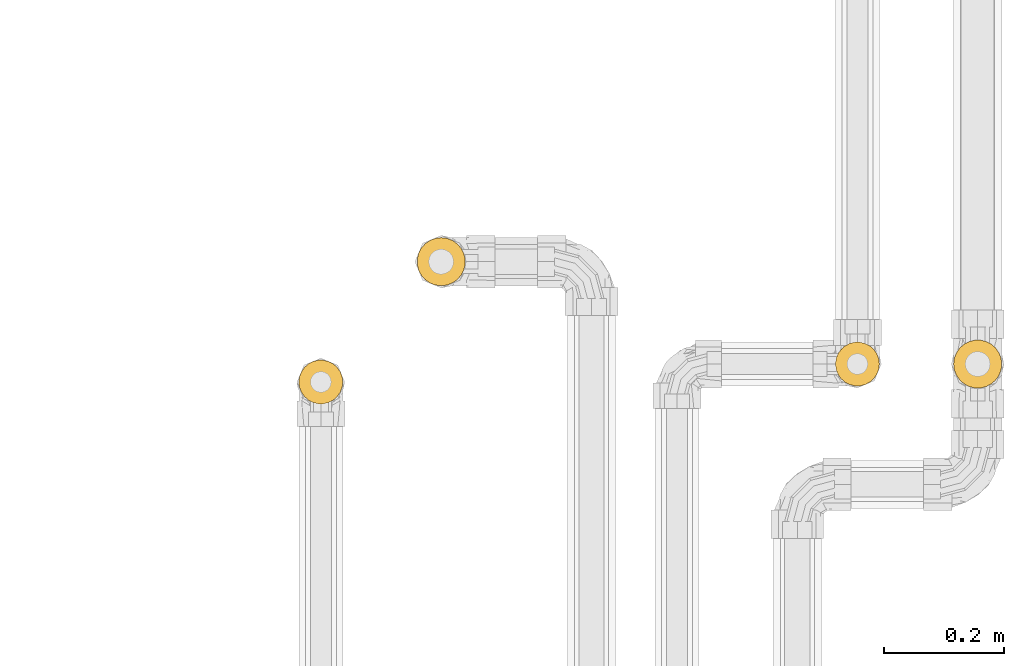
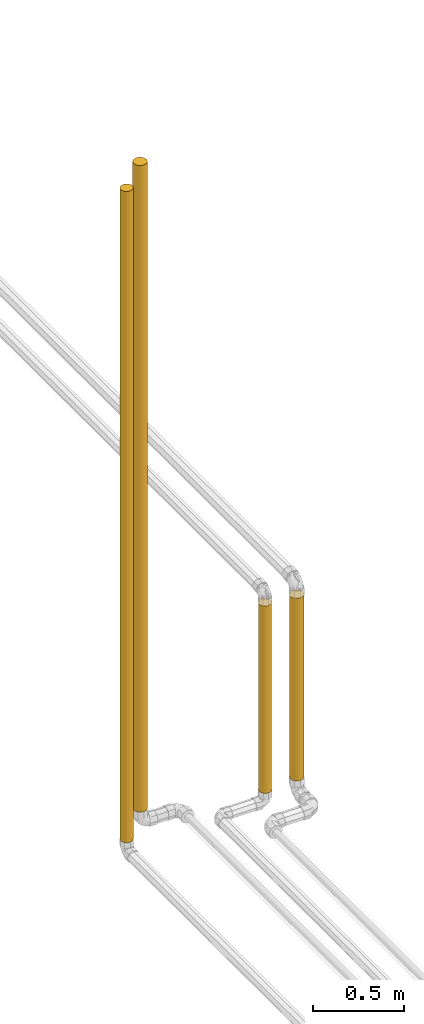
# One storey, part 52 of 652: 4 coverings.
"""IFC2X3 building model written with IfcOpenShell, lengths in millimetres."""

import ifcopenshell
import ifcopenshell.guid

model = None  # the IFC model being written
_history = None  # IfcOwnerHistory: only IFC2X3 demands one
_inside = {}  # id of a spatial element -> (the spatial element, [elements in it])
_under = {}  # id of a project, library or spatial element -> (it, [spatial elements below it])
_declared = {}  # id of a project -> (the project, [libraries it declares])
_typed = {}  # id of a type object -> (the type object, [elements of that type])
_made_of = {}  # id of a material, layer set ... -> (it, [elements and type objects made of it])


def new_model(schema):
    """Start an empty IFC model of exactly this schema.

    Asked for "IFC4X3", IfcOpenShell would pick the latest addendum, in which some entities
    have other attributes; the version numbers below select the first issue.
    IFC2X3 requires an IfcOwnerHistory on every rooted entity: one is made here for all.
    """
    global model, _history
    if schema == "IFC4X3":
        model = ifcopenshell.file(schema_version=(4, 3, 0, 0))
    else:
        model = ifcopenshell.file(schema=schema)
    _inside.clear()
    _under.clear()
    _declared.clear()
    _typed.clear()
    _made_of.clear()
    _history = None
    if model.schema == "IFC2X3":
        org = make("IfcOrganization", Name="unknown")
        user = make(
            "IfcPersonAndOrganization",
            ThePerson=make("IfcPerson", FamilyName="unknown"),
            TheOrganization=org,
        )
        app = make(
            "IfcApplication",
            ApplicationDeveloper=org,
            Version="unknown",
            ApplicationFullName="unknown",
            ApplicationIdentifier="unknown",
        )
        _history = make(
            "IfcOwnerHistory",
            OwningUser=user,
            OwningApplication=app,
            ChangeAction="ADDED",
            CreationDate=0,
        )
    return model


def make(cls, **values):
    """One entity of the class cls with the attributes given. An attribute that is None is left unset."""
    return model.create_entity(
        cls, **{name: value for name, value in values.items() if value is not None}
    )


def entity(cls, *values):
    """Any entity or typed value of the class cls, its attributes in the order of the schema. None: left unset."""
    e = model.create_entity(cls)
    for i, value in enumerate(values):
        if value is not None:
            e[i] = value
    return e


def rooted(cls, **values):
    """An entity with a GlobalId (a new one), such as an element, a storey or a relation."""
    return make(cls, GlobalId=ifcopenshell.guid.new(), OwnerHistory=_history, **values)


def si_unit(unit_type, name, prefix=None):
    """IfcSIUnit, for example si_unit("LENGTHUNIT", "METRE", prefix="MILLI")."""
    return make("IfcSIUnit", UnitType=unit_type, Prefix=prefix, Name=name)


def converted_unit(unit_type, name, factor, base, dimensions=None, offset=None):
    """IfcConversionBasedUnit, such as the inch: factor (a typed value) times the base unit."""
    return make(
        "IfcConversionBasedUnit"
        if offset is None
        else "IfcConversionBasedUnitWithOffset",
        ConversionOffset=offset,
        Dimensions=None
        if dimensions is None
        else entity("IfcDimensionalExponents", *dimensions),
        UnitType=unit_type,
        Name=name,
        ConversionFactor=make(
            "IfcMeasureWithUnit", ValueComponent=factor, UnitComponent=base
        ),
    )


def assignment(units):
    """IfcUnitAssignment: the units of a project."""
    return None if units is None else make("IfcUnitAssignment", Units=units)


def point(xyz):
    """IfcCartesianPoint."""
    return None if xyz is None else make("IfcCartesianPoint", Coordinates=xyz)


def direction(xyz):
    """IfcDirection."""
    return None if xyz is None else make("IfcDirection", DirectionRatios=xyz)


def frame(location, z_axis=None, x_axis=None):
    """IfcAxis2Placement3D, a coordinate frame: its origin and axes. An axis left out is left unset."""
    return make(
        "IfcAxis2Placement3D",
        Location=point(location),
        Axis=direction(z_axis),
        RefDirection=direction(x_axis),
    )


def frame_2d(location, x_axis=None):
    """IfcAxis2Placement2D, a coordinate frame in the plane: its origin and x axis."""
    return make(
        "IfcAxis2Placement2D", Location=point(location), RefDirection=direction(x_axis)
    )


def origin():
    """The frame at (0, 0, 0) with its axes left unset."""
    return frame((0.0, 0.0, 0.0))


def origin_2d_with_axis():
    """The frame at (0, 0) in the plane with the x axis (1, 0) written out."""
    return frame_2d((0.0, 0.0), x_axis=(1.0, 0.0))


def place(relative_to, where):
    """IfcLocalPlacement: puts the frame where relative to a parent placement (None: the world)."""
    return make(
        "IfcLocalPlacement", PlacementRelTo=relative_to, RelativePlacement=where
    )


def context(
    kind, dimensions, precision=None, world=None, true_north=None, identifier=None
):
    """IfcGeometricRepresentationContext, for example the 3D "Model" context."""
    return make(
        "IfcGeometricRepresentationContext",
        ContextIdentifier=identifier,
        ContextType=kind,
        CoordinateSpaceDimension=dimensions,
        Precision=precision,
        WorldCoordinateSystem=world,
        TrueNorth=true_north,
    )


def subcontext(parent, identifier, kind, view, scale=None):
    """IfcGeometricRepresentationSubContext, for example "Body" below "Model"."""
    return make(
        "IfcGeometricRepresentationSubContext",
        ContextIdentifier=identifier,
        ContextType=kind,
        ParentContext=parent,
        TargetScale=scale,
        TargetView=view,
    )


def project(units=None, contexts=None):
    """IfcProject with its units and contexts."""
    return rooted(
        "IfcProject",
        Name="project",
        RepresentationContexts=contexts,
        UnitsInContext=assignment(units),
    )


def spatial(cls, under=None, at=None, **own):
    """A site, building, storey or space (cls), placed at a placement, below another one or the project."""
    s = rooted(cls, ObjectPlacement=at, **own)
    if under is not None:
        _under.setdefault(under.id(), (under, []))[1].append(s)
    return s


def profile(cls, at=None, kind="AREA", **sizes):
    """A parametric profile (cls). Its sizes go by their IFC names, for example OverallWidth=200.0."""
    return make(cls, ProfileType=kind, Position=at, **sizes)


def circle(**sizes):
    """IfcCircleProfileDef."""
    return profile("IfcCircleProfileDef", **sizes)


def extrude(swept, where, along, depth):
    """IfcExtrudedAreaSolid: the profile swept, set in the frame where, extruded along a direction by depth."""
    return make(
        "IfcExtrudedAreaSolid",
        SweptArea=swept,
        Position=where,
        ExtrudedDirection=direction(along),
        Depth=depth,
    )


def shape(context_of_items, identifier, shape_type, items):
    """IfcShapeRepresentation: the items that make up one representation, for example the "Body"."""
    return make(
        "IfcShapeRepresentation",
        ContextOfItems=context_of_items,
        RepresentationIdentifier=identifier,
        RepresentationType=shape_type,
        Items=items,
    )


def material(Name=None, Category=None):
    """IfcMaterial."""
    return make("IfcMaterial", Name=Name, Category=Category)


def made_of(thing, what):
    """Note that an element or type object is made of a material, layer set ...; save() writes the relation."""
    if what is not None:
        _made_of.setdefault(what.id(), (what, []))[1].append(thing)
    return thing


def type_object(cls, material=None, **own):
    """A type object (cls), such as IfcWallType, which elements share."""
    return made_of(rooted(cls, **own), material)


def element(
    cls,
    number,
    at=None,
    inside=None,
    cuts=None,
    type_object=None,
    material=None,
    context=None,
    identifier="Body",
    shape_type=None,
    held_by="IfcProductDefinitionShape",
    body=None,
    shapes=None,
    **own,
):
    """One element of the class cls, such as IfcWall. Its Tag is "e" and its number.

    at: its placement. inside: the storey or other place that contains it. cuts: it is an
    opening in that element (IfcRelVoidsElement). A single representation is given by context,
    identifier, shape_type and body (its items); several are given by shapes. held_by: the class
    of the entity that holds the representations. save() writes the other relations.
    """
    e = rooted(cls, Tag="e%d" % number, ObjectPlacement=at, **own)
    if body is not None:
        shapes = [shape(context, identifier, shape_type, body)]
    if shapes is not None:
        e.Representation = make(held_by, Representations=shapes)
    if inside is not None:
        _inside.setdefault(inside.id(), (inside, []))[1].append(e)
    if cuts is not None:
        rooted(
            "IfcRelVoidsElement", RelatingBuildingElement=cuts, RelatedOpeningElement=e
        )
    if type_object is not None:
        _typed.setdefault(type_object.id(), (type_object, []))[1].append(e)
    return made_of(e, material)


def aggregate(whole, parts):
    """IfcRelAggregates: a whole, such as a stair, and the parts it consists of."""
    return rooted("IfcRelAggregates", RelatingObject=whole, RelatedObjects=parts)


def save(model, path):
    """Write the relations noted so far, then the file.

    IfcRelAggregates (storeys below a building ...), IfcRelContainedInSpatialStructure (elements
    in a storey), IfcRelDefinesByType, IfcRelAssociatesMaterial and IfcRelDeclares: one each for
    every whole, place, type object, material and project.
    """
    for whole, parts in _under.values():
        aggregate(whole, parts)
    for where, things in _inside.values():
        rooted(
            "IfcRelContainedInSpatialStructure",
            RelatedElements=things,
            RelatingStructure=where,
        )
    for kind, things in _typed.values():
        rooted("IfcRelDefinesByType", RelatedObjects=things, RelatingType=kind)
    for what, things in _made_of.values():
        rooted("IfcRelAssociatesMaterial", RelatedObjects=things, RelatingMaterial=what)
    for by, libraries in _declared.values():
        rooted("IfcRelDeclares", RelatingContext=by, RelatedDefinitions=libraries)
    model.write(path)


model = new_model("IFC2X3")

# Units and contexts
model_context = context("Model", 3, precision=0.01, world=frame((0.0, 0.0, 308426.39999999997)), true_north=direction((6.123233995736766e-17, 1.0)))
plan_context = context("Plan", 3, precision=0.01, world=frame((0.0, 0.0, 308426.39999999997)), true_north=direction((6.123233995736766e-17, 1.0)))
body_context = subcontext(model_context, "Body", "Model", "MODEL_VIEW")
ifc_project = project(units=[si_unit("LENGTHUNIT", "METRE", prefix="MILLI"), si_unit("AREAUNIT", "SQUARE_METRE"), si_unit("VOLUMEUNIT", "CUBIC_METRE"), converted_unit("PLANEANGLEUNIT", "DEGREE", entity("IfcPlaneAngleMeasure", 0.017453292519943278), si_unit("PLANEANGLEUNIT", "RADIAN"), dimensions=[0, 0, 0, 0, 0, 0, 0])], contexts=[model_context, plan_context])

# Site, building, storey
site_placement = place(None, origin())
site = spatial("IfcSite", under=ifc_project, at=site_placement, Name="Default", CompositionType="ELEMENT")
building_placement = place(site_placement, origin())
building = spatial("IfcBuilding", under=site, at=building_placement, CompositionType="ELEMENT")
storey_placement = place(building_placement, frame((0.0, 0.0, 1730.6999999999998)))
storey = spatial("IfcBuildingStorey", under=building, at=storey_placement, Name="EG_Produktion_FFB", CompositionType="ELEMENT", Elevation=1730.6999999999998)

# Coverings
ifc_material = material(Name="Dämmung - Armaflex-Schlauch")
covering_type = type_object("IfcCoveringType", Name="Rohrdämmung außen:Armaflex-Schlauch", PredefinedType="INSULATION")
covering_1_placement = place(storey_placement, origin())
element("IfcCovering", 1, at=covering_1_placement, inside=storey, type_object=covering_type, material=ifc_material, Name="Rohrdämmung außen:Armaflex-Schlauch", ObjectType="Rohrdämmung außen:Armaflex-Schlauch", PredefinedType="INSULATION", context=body_context, shape_type="SweptSolid", body=[
    extrude(circle(Radius=36.5, at=origin_2d_with_axis()), frame((79422.09274770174, 78778.73010396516, 3674.2499999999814), z_axis=(0.0, 0.0, 1.0), x_axis=(-1.0, 0.0, 0.0)), (0.0, 0.0, 1.0), 1251.5000000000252),
])
covering_2_placement = place(storey_placement, origin())
element("IfcCovering", 2, at=covering_2_placement, inside=storey, type_object=covering_type, material=ifc_material, Name="Rohrdämmung außen:Armaflex-Schlauch", ObjectType="Rohrdämmung außen:Armaflex-Schlauch", PredefinedType="INSULATION", context=body_context, shape_type="SweptSolid", body=[
    extrude(circle(Radius=40.0, at=origin_2d_with_axis()), frame((79622.09274770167, 78778.73010396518, 3689.7199999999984), z_axis=(0.0, 0.0, 1.0), x_axis=(-1.0, 0.0, 0.0)), (0.0, 0.0, 1.0), 1220.56000000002),
])
covering_3_placement = place(storey_placement, origin())
element("IfcCovering", 3, at=covering_3_placement, inside=storey, type_object=covering_type, material=ifc_material, Name="Rohrdämmung außen:Armaflex-Schlauch", ObjectType="Rohrdämmung außen:Armaflex-Schlauch", PredefinedType="INSULATION", context=body_context, shape_type="SweptSolid", body=[
    extrude(circle(Radius=40.0, at=frame_2d((1.7325874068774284e-11, 0.0), x_axis=(1.0, 0.0))), frame((78730.0000000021, 78948.86066098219, 3689.720000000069), z_axis=(0.0, 0.0, 1.0), x_axis=(0.0, -1.0, 0.0)), (0.0, 0.0, 1.0), 4320.559999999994),
])
covering_4_placement = place(storey_placement, origin())
element("IfcCovering", 4, at=covering_4_placement, inside=storey, type_object=covering_type, material=ifc_material, Name="Rohrdämmung außen:Armaflex-Schlauch", ObjectType="Rohrdämmung außen:Armaflex-Schlauch", PredefinedType="INSULATION", context=body_context, shape_type="SweptSolid", body=[
    extrude(circle(Radius=36.5, at=origin_2d_with_axis()), frame((78530.00000000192, 78748.86066098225, 3674.2499999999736)), (0.0, 0.0, 1.0), 4351.500000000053),
])

save(model, "model.ifc")
